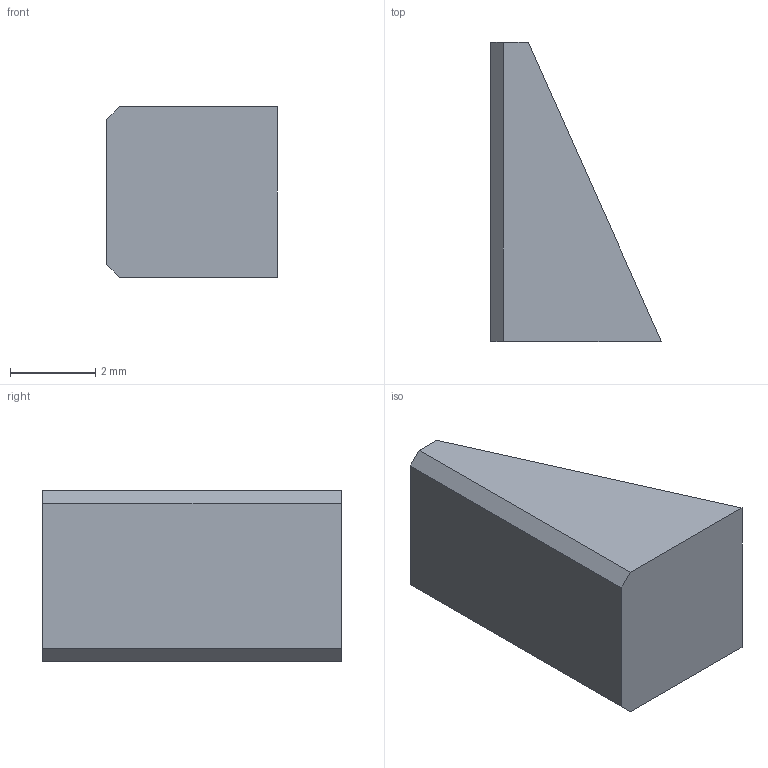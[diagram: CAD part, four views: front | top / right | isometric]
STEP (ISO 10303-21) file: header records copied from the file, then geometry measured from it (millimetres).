
FILE_DESCRIPTION (( 'STEP AP214' ), '1' );
FILE_NAME ('3.STEP', '2024-10-22T07:03:59', ( '' ), ( '' ), 'SwSTEP 2.0', 'SolidWorks 2024', '' );
FILE_SCHEMA (( 'AUTOMOTIVE_DESIGN' ));
Length unit declared in the file: millimetre
Products named in the file (1): 3
Bounding box: 4 x 7 x 4 mm (x, y, z)
Volume: 67.7 mm3; surface area: 109.7 mm2
Topology: 1 solids, 1 shells, 8 faces, 18 edges, 12 vertices
Faces by surface type: plane 8
Entity records: 245 total; most frequent: CARTESIAN_POINT 39, DIRECTION 36, ORIENTED_EDGE 36, LINE 18, EDGE_CURVE 18, VECTOR 18, VERTEX_POINT 12, AXIS2_PLACEMENT_3D 9
